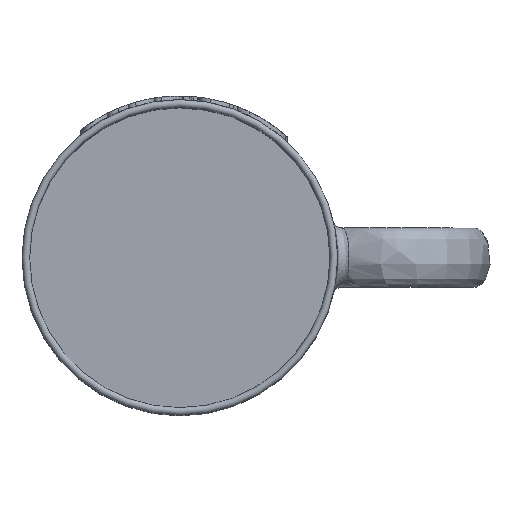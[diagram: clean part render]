
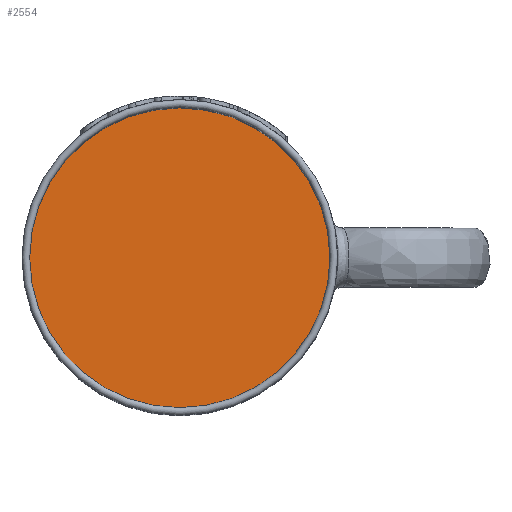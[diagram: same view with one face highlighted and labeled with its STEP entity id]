
A CAD part, top view. The second image highlights one B-rep face of the part: STEP entity #2554.
In plain terms, the highlighted planar face has unit normal (0, 0, 1).
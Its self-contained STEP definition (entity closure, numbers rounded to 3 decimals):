
#69=PLANE('',#2774);
#547=FACE_OUTER_BOUND('',#707,.T.);
#707=EDGE_LOOP('',(#2350));
#785=CIRCLE('',#2773,39.5);
#1192=VERTEX_POINT('',#7206);
#1578=EDGE_CURVE('',#1192,#1192,#785,.T.);
#2350=ORIENTED_EDGE('',*,*,#1578,.F.);
#2554=ADVANCED_FACE('',(#547),#69,.T.);
#2773=AXIS2_PLACEMENT_3D('',#7208,#3288,#3289);
#2774=AXIS2_PLACEMENT_3D('',#7209,#3290,#3291);
#3288=DIRECTION('center_axis',(0.,0.,-1.));
#3289=DIRECTION('ref_axis',(1.,0.,0.));
#3290=DIRECTION('center_axis',(0.,0.,1.));
#3291=DIRECTION('ref_axis',(1.,0.,0.));
#7206=CARTESIAN_POINT('',(-39.5,0.,7.));
#7208=CARTESIAN_POINT('Origin',(0.,0.,7.));
#7209=CARTESIAN_POINT('Origin',(0.,0.,7.));
